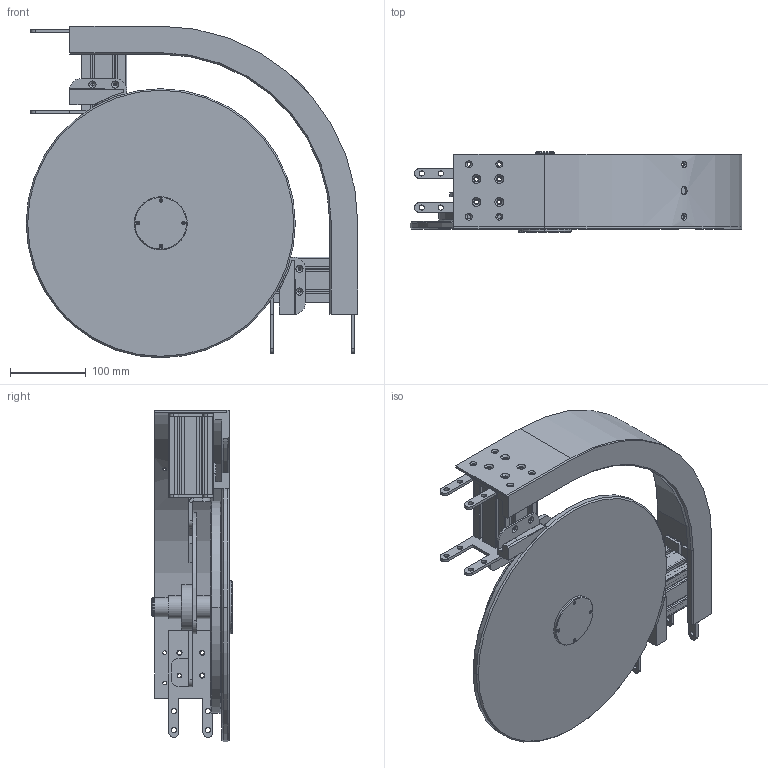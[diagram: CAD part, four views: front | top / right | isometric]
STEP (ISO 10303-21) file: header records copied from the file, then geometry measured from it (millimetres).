
FILE_DESCRIPTION (( 'STEP AP203' ), '1' );
FILE_NAME ('2000.450.690.STEP', '2018-03-12T15:46:46', ( '' ), ( '' ), 'SwSTEP 2.0', 'SolidWorks 2016', '' );
FILE_SCHEMA (( 'CONFIG_CONTROL_DESIGN' ));
Length unit declared in the file: millimetre
Products named in the file (14): 2000.450.412; 2000.450.502; 2000.325.502-4; 2000.450.004_Default<A macchina>; 2000.450.401; 2000.325.402; 2000.325.501-2; 2000.325.401; 2000.450.503; 2000.325.513-3; 2000.450.501; 2000.325.514; radial ball bearing_68_skf_SKF - 16005 - 14,DE,NC,14_68; 2000.450.690
Assembly tree (20 placements, depth 2):
  2000.450.690
    2000.325.501-2
    2000.325.502-4
    2000.325.402  x2
    2000.325.513-3
    2000.325.514
    2000.325.401  x4
    radial ball bearing_68_skf_SKF - 16005 - 14,DE,NC,14_68  x2
    2000.450.401
    2000.450.412
    2000.450.004_Default<A macchina>  x2
    2000.450.501  x2
    2000.450.503
    2000.450.502
Bounding box: 437.5 x 106 x 437.5 mm (x, y, z)
Volume: 2997247.8 mm3; surface area: 836293.3 mm2
Topology: 20 solids, 20 shells, 1235 faces, 3717 edges, 2424 vertices
Faces by surface type: plane 489, cylinder 480, torus 120, cone 80, sphere 56, bspline 10
Entity records: 28991 total; most frequent: CARTESIAN_POINT 7566, DIRECTION 4178, ORIENTED_EDGE 4156, EDGE_CURVE 2078, AXIS2_PLACEMENT_3D 1576, VERTEX_POINT 1353, LINE 1026, VECTOR 1026
